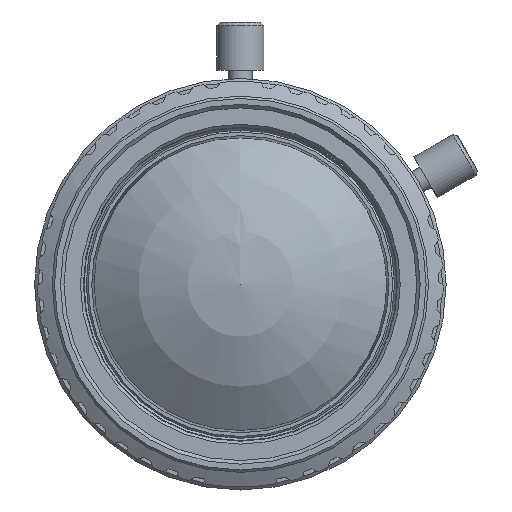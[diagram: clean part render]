
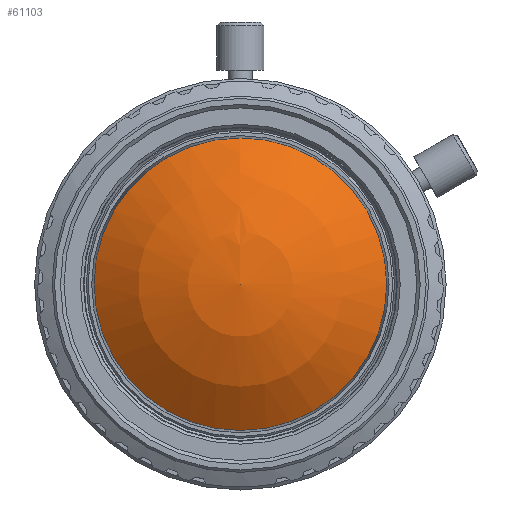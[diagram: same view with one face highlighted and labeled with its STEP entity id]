
A CAD part, front view. The second image highlights one B-rep face of the part: STEP entity #61103.
In plain terms, the highlighted spherical face has radius 19.632 mm.
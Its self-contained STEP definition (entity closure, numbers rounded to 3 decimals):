
#61103 = ADVANCED_FACE('',(#61104),#61119,.T.);
#61104 = FACE_BOUND('',#61105,.T.);
#61105 = EDGE_LOOP('',(#61106,#61164,#61190,#61191));
#61106 = ORIENTED_EDGE('',*,*,#61107,.F.);
#61107 = EDGE_CURVE('',#61108,#61110,#61112,.T.);
#61108 = VERTEX_POINT('',#61109);
#61109 = CARTESIAN_POINT('',(0.,-75.961,12.5));
#61110 = VERTEX_POINT('',#61111);
#61111 = CARTESIAN_POINT('',(-12.5,-75.961,0.));
#61112 = SURFACE_CURVE('',#61113,(#61118,#61152),.PCURVE_S1.);
#61113 = CIRCLE('',#61114,12.5);
#61114 = AXIS2_PLACEMENT_3D('',#61115,#61116,#61117);
#61115 = CARTESIAN_POINT('',(0.,-75.961,
    0.));
#61116 = DIRECTION('',(0.,1.,0.));
#61117 = DIRECTION('',(-1.,0.,0.));
#61118 = PCURVE('',#61119,#61124);
#61119 = SPHERICAL_SURFACE('',#61120,19.632);
#61120 = AXIS2_PLACEMENT_3D('',#61121,#61122,#61123);
#61121 = CARTESIAN_POINT('',(0.,-60.823,
    0.));
#61122 = DIRECTION('',(0.,1.,0.));
#61123 = DIRECTION('',(0.,0.,1.));
#61124 = DEFINITIONAL_REPRESENTATION('',(#61125),#61151);
#61125 = B_SPLINE_CURVE_WITH_KNOTS('',3,(#61126,#61127,#61128,#61129,
    #61130,#61131,#61132,#61133,#61134,#61135,#61136,#61137,#61138,
    #61139,#61140,#61141,#61142,#61143,#61144,#61145,#61146,#61147,
    #61148,#61149,#61150),.UNSPECIFIED.,.F.,.F.,(4,1,1,1,1,1,1,1,1,1,1,1
    ,1,1,1,1,1,1,1,1,1,1,4),(0.,0.286,0.571,
    0.857,1.142,1.428,1.714,
    1.999,2.285,2.57,2.856,
    3.142,3.427,3.713,3.998,
    4.284,4.57,4.855,5.141,
    5.426,5.712,5.998,6.283),
  .QUASI_UNIFORM_KNOTS.);
#61126 = CARTESIAN_POINT('',(-1.571,-0.881));
#61127 = CARTESIAN_POINT('',(-1.476,-0.881));
#61128 = CARTESIAN_POINT('',(-1.285,-0.881));
#61129 = CARTESIAN_POINT('',(-1.,-0.881));
#61130 = CARTESIAN_POINT('',(-0.714,-0.881));
#61131 = CARTESIAN_POINT('',(-0.428,-0.881));
#61132 = CARTESIAN_POINT('',(-0.143,-0.881));
#61133 = CARTESIAN_POINT('',(0.143,-0.881));
#61134 = CARTESIAN_POINT('',(0.428,-0.881));
#61135 = CARTESIAN_POINT('',(0.714,-0.881));
#61136 = CARTESIAN_POINT('',(1.,-0.881));
#61137 = CARTESIAN_POINT('',(1.285,-0.881));
#61138 = CARTESIAN_POINT('',(1.571,-0.881));
#61139 = CARTESIAN_POINT('',(1.856,-0.881));
#61140 = CARTESIAN_POINT('',(2.142,-0.881));
#61141 = CARTESIAN_POINT('',(2.428,-0.881));
#61142 = CARTESIAN_POINT('',(2.713,-0.881));
#61143 = CARTESIAN_POINT('',(2.999,-0.881));
#61144 = CARTESIAN_POINT('',(3.284,-0.881));
#61145 = CARTESIAN_POINT('',(3.57,-0.881));
#61146 = CARTESIAN_POINT('',(3.856,-0.881));
#61147 = CARTESIAN_POINT('',(4.141,-0.881));
#61148 = CARTESIAN_POINT('',(4.427,-0.881));
#61149 = CARTESIAN_POINT('',(4.617,-0.881));
#61150 = CARTESIAN_POINT('',(4.712,-0.881));
#61151 = ( GEOMETRIC_REPRESENTATION_CONTEXT(2) 
PARAMETRIC_REPRESENTATION_CONTEXT() REPRESENTATION_CONTEXT('',''
  ) );
#61152 = PCURVE('',#61153,#61158);
#61153 = CONICAL_SURFACE('',#61154,12.5,0.785);
#61154 = AXIS2_PLACEMENT_3D('',#61155,#61156,#61157);
#61155 = CARTESIAN_POINT('',(0.,-75.961,
    0.));
#61156 = DIRECTION('',(0.,1.,0.));
#61157 = DIRECTION('',(-1.,0.,0.));
#61158 = DEFINITIONAL_REPRESENTATION('',(#61159),#61163);
#61159 = LINE('',#61160,#61161);
#61160 = CARTESIAN_POINT('',(0.,0.));
#61161 = VECTOR('',#61162,1.);
#61162 = DIRECTION('',(1.,0.));
#61163 = ( GEOMETRIC_REPRESENTATION_CONTEXT(2) 
PARAMETRIC_REPRESENTATION_CONTEXT() REPRESENTATION_CONTEXT('',''
  ) );
#61164 = ORIENTED_EDGE('',*,*,#61165,.F.);
#61165 = EDGE_CURVE('',#61166,#61108,#61168,.T.);
#61166 = VERTEX_POINT('',#61167);
#61167 = CARTESIAN_POINT('',(0.,-80.455,
    0.));
#61168 = SEAM_CURVE('',#61169,(#61176,#61183),.PCURVE_S1.);
#61169 = B_SPLINE_CURVE_WITH_KNOTS('',5,(#61170,#61171,#61172,#61173,
    #61174,#61175),.UNSPECIFIED.,.F.,.F.,(6,6),(-1.571,
    -0.881),.PIECEWISE_BEZIER_KNOTS.);
#61170 = CARTESIAN_POINT('',(0.,-80.455,
    0.));
#61171 = CARTESIAN_POINT('',(0.,-80.455,2.71)
  );
#61172 = CARTESIAN_POINT('',(0.,-79.988,
    5.42));
#61173 = CARTESIAN_POINT('',(0.,-79.052,
    8.023));
#61174 = CARTESIAN_POINT('',(0.,-77.687,
    10.41));
#61175 = CARTESIAN_POINT('',(0.,-75.961,12.5));
#61176 = PCURVE('',#61119,#61177);
#61177 = DEFINITIONAL_REPRESENTATION('',(#61178),#61182);
#61178 = LINE('',#61179,#61180);
#61179 = CARTESIAN_POINT('',(0.,0.));
#61180 = VECTOR('',#61181,1.);
#61181 = DIRECTION('',(0.,1.));
#61182 = ( GEOMETRIC_REPRESENTATION_CONTEXT(2) 
PARAMETRIC_REPRESENTATION_CONTEXT() REPRESENTATION_CONTEXT('',''
  ) );
#61183 = PCURVE('',#61119,#61184);
#61184 = DEFINITIONAL_REPRESENTATION('',(#61185),#61189);
#61185 = LINE('',#61186,#61187);
#61186 = CARTESIAN_POINT('',(6.283,0.));
#61187 = VECTOR('',#61188,1.);
#61188 = DIRECTION('',(0.,1.));
#61189 = ( GEOMETRIC_REPRESENTATION_CONTEXT(2) 
PARAMETRIC_REPRESENTATION_CONTEXT() REPRESENTATION_CONTEXT('',''
  ) );
#61190 = ORIENTED_EDGE('',*,*,#61165,.T.);
#61191 = ORIENTED_EDGE('',*,*,#61192,.F.);
#61192 = EDGE_CURVE('',#61110,#61108,#61193,.T.);
#61193 = SURFACE_CURVE('',#61194,(#61199,#61228),.PCURVE_S1.);
#61194 = CIRCLE('',#61195,12.5);
#61195 = AXIS2_PLACEMENT_3D('',#61196,#61197,#61198);
#61196 = CARTESIAN_POINT('',(0.,-75.961,
    0.));
#61197 = DIRECTION('',(0.,1.,0.));
#61198 = DIRECTION('',(-1.,0.,0.));
#61199 = PCURVE('',#61119,#61200);
#61200 = DEFINITIONAL_REPRESENTATION('',(#61201),#61227);
#61201 = B_SPLINE_CURVE_WITH_KNOTS('',3,(#61202,#61203,#61204,#61205,
    #61206,#61207,#61208,#61209,#61210,#61211,#61212,#61213,#61214,
    #61215,#61216,#61217,#61218,#61219,#61220,#61221,#61222,#61223,
    #61224,#61225,#61226),.UNSPECIFIED.,.F.,.F.,(4,1,1,1,1,1,1,1,1,1,1,1
    ,1,1,1,1,1,1,1,1,1,1,4),(0.,0.286,0.571,
    0.857,1.142,1.428,1.714,
    1.999,2.285,2.57,2.856,
    3.142,3.427,3.713,3.998,
    4.284,4.57,4.855,5.141,
    5.426,5.712,5.998,6.283),
  .QUASI_UNIFORM_KNOTS.);
#61202 = CARTESIAN_POINT('',(4.712,-0.881));
#61203 = CARTESIAN_POINT('',(4.808,-0.881));
#61204 = CARTESIAN_POINT('',(4.998,-0.881));
#61205 = CARTESIAN_POINT('',(5.284,-0.881));
#61206 = CARTESIAN_POINT('',(5.569,-0.881));
#61207 = CARTESIAN_POINT('',(5.855,-0.881));
#61208 = CARTESIAN_POINT('',(6.14,-0.881));
#61209 = CARTESIAN_POINT('',(6.426,-0.881));
#61210 = CARTESIAN_POINT('',(6.712,-0.881));
#61211 = CARTESIAN_POINT('',(6.997,-0.881));
#61212 = CARTESIAN_POINT('',(7.283,-0.881));
#61213 = CARTESIAN_POINT('',(7.568,-0.881));
#61214 = CARTESIAN_POINT('',(7.854,-0.881));
#61215 = CARTESIAN_POINT('',(8.14,-0.881));
#61216 = CARTESIAN_POINT('',(8.425,-0.881));
#61217 = CARTESIAN_POINT('',(8.711,-0.881));
#61218 = CARTESIAN_POINT('',(8.996,-0.881));
#61219 = CARTESIAN_POINT('',(9.282,-0.881));
#61220 = CARTESIAN_POINT('',(9.568,-0.881));
#61221 = CARTESIAN_POINT('',(9.853,-0.881));
#61222 = CARTESIAN_POINT('',(10.139,-0.881));
#61223 = CARTESIAN_POINT('',(10.424,-0.881));
#61224 = CARTESIAN_POINT('',(10.71,-0.881));
#61225 = CARTESIAN_POINT('',(10.9,-0.881));
#61226 = CARTESIAN_POINT('',(10.996,-0.881));
#61227 = ( GEOMETRIC_REPRESENTATION_CONTEXT(2) 
PARAMETRIC_REPRESENTATION_CONTEXT() REPRESENTATION_CONTEXT('',''
  ) );
#61228 = PCURVE('',#61153,#61229);
#61229 = DEFINITIONAL_REPRESENTATION('',(#61230),#61234);
#61230 = LINE('',#61231,#61232);
#61231 = CARTESIAN_POINT('',(0.,0.));
#61232 = VECTOR('',#61233,1.);
#61233 = DIRECTION('',(1.,0.));
#61234 = ( GEOMETRIC_REPRESENTATION_CONTEXT(2) 
PARAMETRIC_REPRESENTATION_CONTEXT() REPRESENTATION_CONTEXT('',''
  ) );
